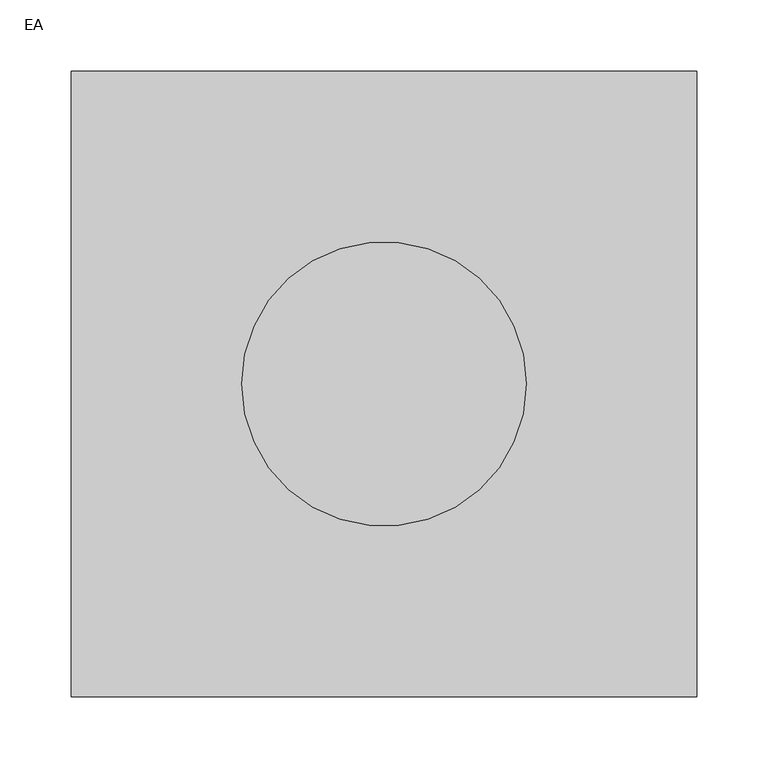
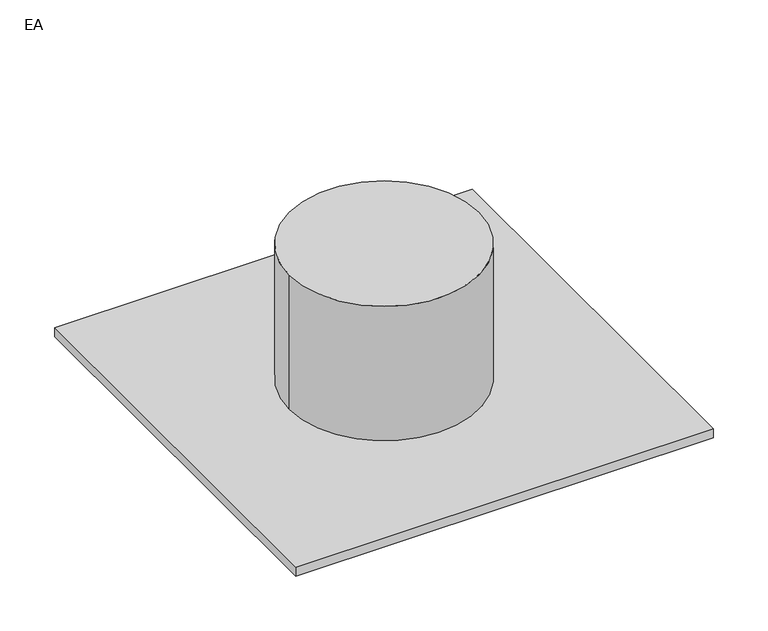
"""IFC4 building model written with IfcOpenShell, lengths in millimetres: air terminal geometry, 031_シーリングディフューザー : EA."""

from ifc_helpers import new_model, si_unit, point, frame, origin, origin_with_axes, origin_2d, place, context, project, spatial, polyline, circle_curve, trimmed, segment, composite_curve, outline, extrude, source, transform, mapped, element, save


def ea_04edfbb3(model_context):
    return source(origin(), model_context, "Body", "SweptSolid", [
        extrude(outline(polyline([(220.0, 220.0), (220.0, -220.0), (-220.0, -220.0), (-220.0, 220.0), (220.0, 220.0)])), frame((0.0, 0.0, -10.0), z_axis=(0.0, 0.0, 1.0), x_axis=(1.0, 0.0, 0.0)), (0.0, 0.0, 1.0), 10.0),
        extrude(outline(composite_curve([segment(trimmed(circle_curve(origin_2d(), 100.0), [point((-100.0, 0.0))], [point((100.0, 0.0))], False, "CARTESIAN"), True, "CONTINUOUS"), segment(trimmed(circle_curve(origin_2d(), 100.0), [point((100.0, 0.0))], [point((-100.0, 0.0))], False, "CARTESIAN"), True, "CONTINUOUS")], self_intersect=False)), origin_with_axes(), (0.0, 0.0, 1.0), 150.0),
    ])


if __name__ == "__main__":
    model = new_model("IFC4")
    model_context = context("Model", 3, world=origin())
    ifc_project = project(units=[si_unit("LENGTHUNIT", "METRE", prefix="MILLI")], contexts=[model_context])
    site = spatial("IfcSite", under=ifc_project)
    building = spatial("IfcBuilding", under=site)
    placement = place(None, origin())
    ea_shape = ea_04edfbb3(model_context)
    element("IfcAirTerminal", 1, ObjectType="031_シーリングディフューザー : EA", at=placement, inside=building, context=model_context, shape_type="MappedRepresentation", body=[
        mapped(ea_shape, transform((0.0, 0.0, 0.0), x_axis=(1.0, 0.0, 0.0), y_axis=(0.0, 1.0, 0.0), z_axis=(0.0, 0.0, 1.0))),
    ])
    save(model, "model.ifc")
